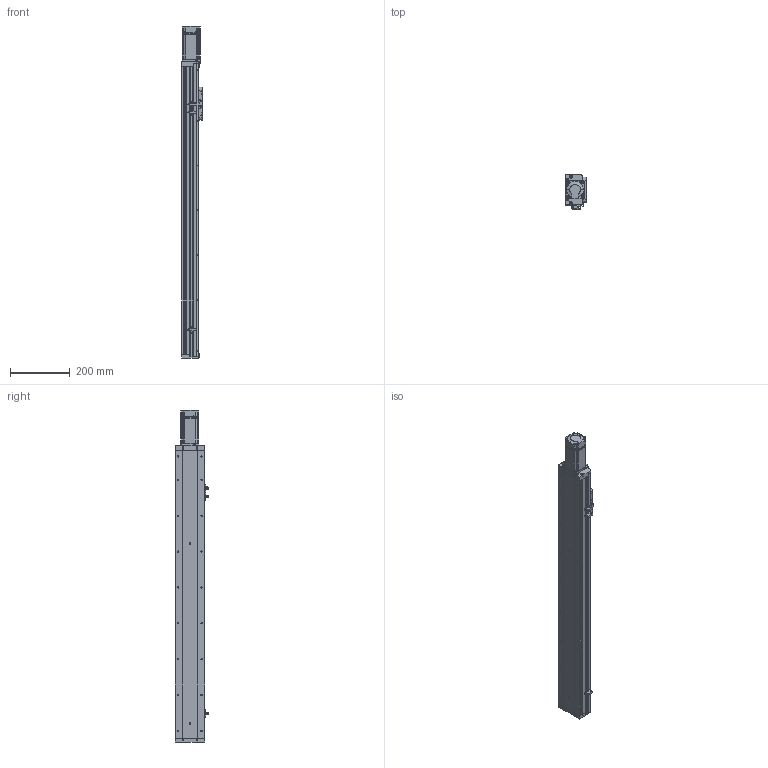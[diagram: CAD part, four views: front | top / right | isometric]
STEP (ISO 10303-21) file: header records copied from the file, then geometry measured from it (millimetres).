
FILE_DESCRIPTION (( 'STEP AP214' ), '1' );
FILE_NAME ('KSD100S-S750-MN-CR.STEP', '2019-09-02T09:32:48', ( '微软用户' ), ( '微软中国' ), 'SwSTEP 2.0', 'SolidWorks 2014', '' );
FILE_SCHEMA (( 'AUTOMOTIVE_DESIGN' ));
Length unit declared in the file: millimetre
Products named in the file (12): MHMD042G1CA_2_03; U倰嫖萇EEㄜSX672; 感应片100宽全封闭; 100宽马达安装板全封闭不带电机座; 100宽端板全封闭; 100宽滚珠螺姆安装板1防护罩; 100宽滚珠螺姆安装板1; 100宽盖板压板不带电机座; 100宽盖板750行程不带电机座; 100宽侧板750行程不带电机座; 100宽底板全封闭750行程不带电机座; KSD100S-S750-MN-CR
Assembly tree (15 placements, depth 2):
  KSD100S-S750-MN-CR
    100宽底板全封闭750行程不带电机座
    100宽侧板750行程不带电机座  x2
    100宽盖板750行程不带电机座
    100宽盖板压板不带电机座  x2
    100宽滚珠螺姆安装板1
    100宽滚珠螺姆安装板1防护罩
    100宽端板全封闭
    100宽马达安装板全封闭不带电机座
    感应片100宽全封闭
    U倰嫖萇EEㄜSX672  x3
    MHMD042G1CA_2_03
Bounding box: 70 x 113.7 x 1110.5 mm (x, y, z)
Volume: 1944495.3 mm3; surface area: 857432.8 mm2
Topology: 14 solids, 15 shells, 1588 faces, 4454 edges, 2832 vertices
Faces by surface type: cylinder 673, plane 660, cone 237, bspline 18
Entity records: 54242 total; most frequent: CARTESIAN_POINT 8529, DIRECTION 7415, ORIENTED_EDGE 6888, EDGE_CURVE 3516, AXIS2_PLACEMENT_3D 2646, VERTEX_POINT 2330, VECTOR 2123, LINE 2123
